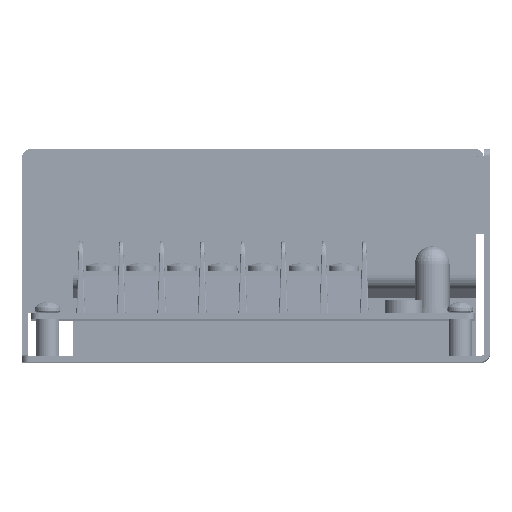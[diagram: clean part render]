
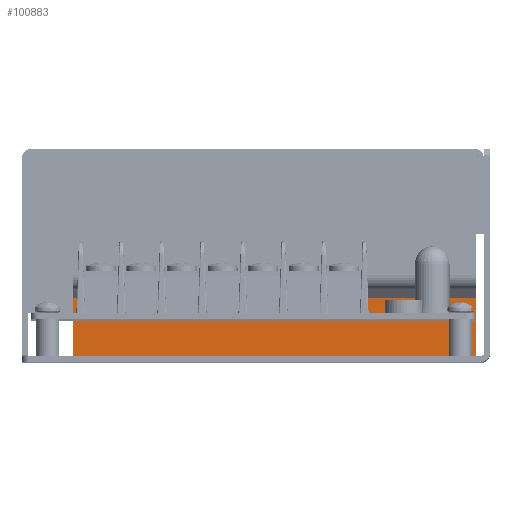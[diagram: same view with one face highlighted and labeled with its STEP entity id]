
A CAD part, top view. The second image highlights one B-rep face of the part: STEP entity #100883.
In plain terms, the highlighted planar face has unit normal (0, 0, 1).
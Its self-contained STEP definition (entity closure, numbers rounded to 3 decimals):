
#5796 = LINE ( 'NONE', #54383, #66551 ) ;
#9911 = CARTESIAN_POINT ( 'NONE',  ( 51.62, 15.778, -98.1 ) ) ;
#12170 = CARTESIAN_POINT ( 'NONE',  ( 101.446, 1.48, -98.1 ) ) ;
#18330 = VERTEX_POINT ( 'NONE', #27281 ) ;
#19168 = DIRECTION ( 'NONE',  ( -1., 0., 0. ) ) ;
#20717 = EDGE_CURVE ( 'NONE', #18330, #110912, #5796, .T. ) ;
#27281 = CARTESIAN_POINT ( 'NONE',  ( -43., 15.318, -98.1 ) ) ;
#30274 = EDGE_CURVE ( 'NONE', #148141, #18330, #111184, .T. ) ;
#32646 = DIRECTION ( 'NONE',  ( 0., 1., 0. ) ) ;
#40952 = ORIENTED_EDGE ( 'NONE', *, *, #107039, .F. ) ;
#43671 = VECTOR ( 'NONE', #101920, 1000. ) ;
#44819 = FACE_OUTER_BOUND ( 'NONE', #69860, .T. ) ;
#54383 = CARTESIAN_POINT ( 'NONE',  ( -43., 15.778, -98.1 ) ) ;
#62017 = CARTESIAN_POINT ( 'NONE',  ( 101.446, 15.778, -98.1 ) ) ;
#66551 = VECTOR ( 'NONE', #191781, 1000. ) ;
#69860 = EDGE_LOOP ( 'NONE', ( #82560, #139745, #177336, #40952 ) ) ;
#72320 = AXIS2_PLACEMENT_3D ( 'NONE', #62017, #187345, #32646 ) ;
#82560 = ORIENTED_EDGE ( 'NONE', *, *, #91895, .F. ) ;
#91397 = PLANE ( 'NONE',  #72320 ) ;
#91895 = EDGE_CURVE ( 'NONE', #148141, #163891, #176789, .T. ) ;
#100883 = ADVANCED_FACE ( 'NONE', ( #44819 ), #91397, .F. ) ;
#101920 = DIRECTION ( 'NONE',  ( 0., -1., 0. ) ) ;
#107039 = EDGE_CURVE ( 'NONE', #163891, #110912, #200150, .T. ) ;
#110912 = VERTEX_POINT ( 'NONE', #176726 ) ;
#111184 = LINE ( 'NONE', #157789, #150181 ) ;
#115266 = VECTOR ( 'NONE', #197161, 1000. ) ;
#116915 = CARTESIAN_POINT ( 'NONE',  ( 51.62, 1.48, -98.1 ) ) ;
#139745 = ORIENTED_EDGE ( 'NONE', *, *, #30274, .T. ) ;
#148141 = VERTEX_POINT ( 'NONE', #170899 ) ;
#150181 = VECTOR ( 'NONE', #19168, 1000. ) ;
#157789 = CARTESIAN_POINT ( 'NONE',  ( 101.446, 15.318, -98.1 ) ) ;
#163891 = VERTEX_POINT ( 'NONE', #116915 ) ;
#170899 = CARTESIAN_POINT ( 'NONE',  ( 51.62, 15.318, -98.1 ) ) ;
#176726 = CARTESIAN_POINT ( 'NONE',  ( -43., 1.48, -98.1 ) ) ;
#176789 = LINE ( 'NONE', #9911, #43671 ) ;
#177336 = ORIENTED_EDGE ( 'NONE', *, *, #20717, .T. ) ;
#187345 = DIRECTION ( 'NONE',  ( 0., 0., -1. ) ) ;
#191781 = DIRECTION ( 'NONE',  ( 0., -1., 0. ) ) ;
#197161 = DIRECTION ( 'NONE',  ( -1., 0., 0. ) ) ;
#200150 = LINE ( 'NONE', #12170, #115266 ) ;
